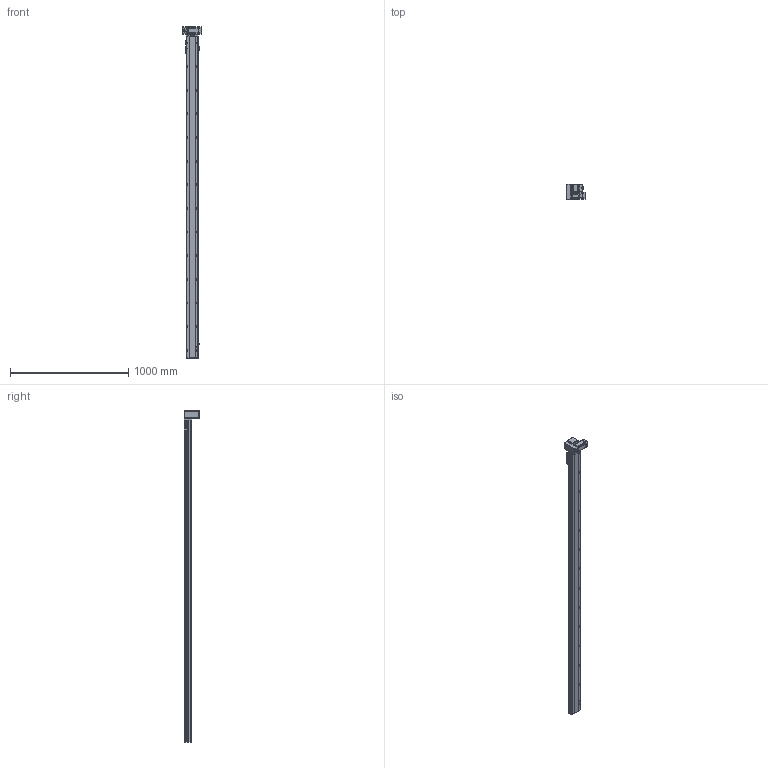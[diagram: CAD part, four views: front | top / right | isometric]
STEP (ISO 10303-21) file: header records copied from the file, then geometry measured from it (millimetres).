
FILE_DESCRIPTION (( 'STEP AP214' ), '1' );
FILE_NAME ('TPT10-L32-2500-LD-T10-C4.STEP', '2023-03-02T10:45:22', ( '' ), ( '' ), 'SwSTEP 2.0', 'SolidWorks 2020', '' );
FILE_SCHEMA (( 'AUTOMOTIVE_DESIGN' ));
Length unit declared in the file: millimetre
Products named in the file (12): 葩璃 TPT10-L-007 々湍釱MZ-169x88^TPT10-L32-LD-T10-C4_L; 葩璃 TPT10-L-002 奻裔MZ-102A-02^TPT10-L32-LD-T10-C4; 葩璃 TPT10-L-005 賑釱MZ-102A-03^TPT10-L32-LD-T10-C4; hex nuts, style 1-grades ab gb_GB_FASTENER_NUT_SNAB1 M3-N; 葩璃 侂狟400W^TPT10-L32-LD-T10-C4; hexagon socket head cap screws gb_GB_FASTENER_SCREWS_HSHCS M3X6-N; 葩璃 TPT10-L-001 菁釱MZ-102A-01^TPT10-L32-LD-T10-C4; hexagon head bolts-full thread gb_GB_FASTENER_BOLT_STBAB A M5X16-N; 葩璃 TPT10-L-009 萇儂啣^TPT10-L32-LD-T10-C4_100W; TPT10-L32-2500-LD-T10-C4; 葩璃 pm-t65-672^TPT10-L32-LD-T10-C4; 葩璃 侂狟100W^TPT10-L32-LD-T10-C4
Assembly tree (23 placements, depth 2):
  TPT10-L32-2500-LD-T10-C4
    葩璃 TPT10-L-001 菁釱MZ-102A-01^TPT10-L32-LD-T10-C4
    葩璃 TPT10-L-002 奻裔MZ-102A-02^TPT10-L32-LD-T10-C4
    葩璃 TPT10-L-007 々湍釱MZ-169x88^TPT10-L32-LD-T10-C4_L
    葩璃 TPT10-L-005 賑釱MZ-102A-03^TPT10-L32-LD-T10-C4
    葩璃 TPT10-L-009 萇儂啣^TPT10-L32-LD-T10-C4_100W
    葩璃 pm-t65-672^TPT10-L32-LD-T10-C4  x3
    葩璃 侂狟100W^TPT10-L32-LD-T10-C4
    葩璃 侂狟400W^TPT10-L32-LD-T10-C4
    hexagon head bolts-full thread gb_GB_FASTENER_BOLT_STBAB A M5X16-N
    hexagon socket head cap screws gb_GB_FASTENER_SCREWS_HSHCS M3X6-N  x6
    hex nuts, style 1-grades ab gb_GB_FASTENER_NUT_SNAB1 M3-N  x6
Bounding box: 160.5 x 134.65 x 2810 mm (x, y, z)
Volume: 8848025.5 mm3; surface area: 1693787.5 mm2
Topology: 31 solids, 31 shells, 2093 faces, 5515 edges, 3513 vertices
Faces by surface type: plane 1098, cylinder 719, cone 230, bspline 34, torus 12
Entity records: 54717 total; most frequent: CARTESIAN_POINT 10912, DIRECTION 8906, ORIENTED_EDGE 8582, EDGE_CURVE 4291, AXIS2_PLACEMENT_3D 3172, VERTEX_POINT 2804, LINE 2562, VECTOR 2562
